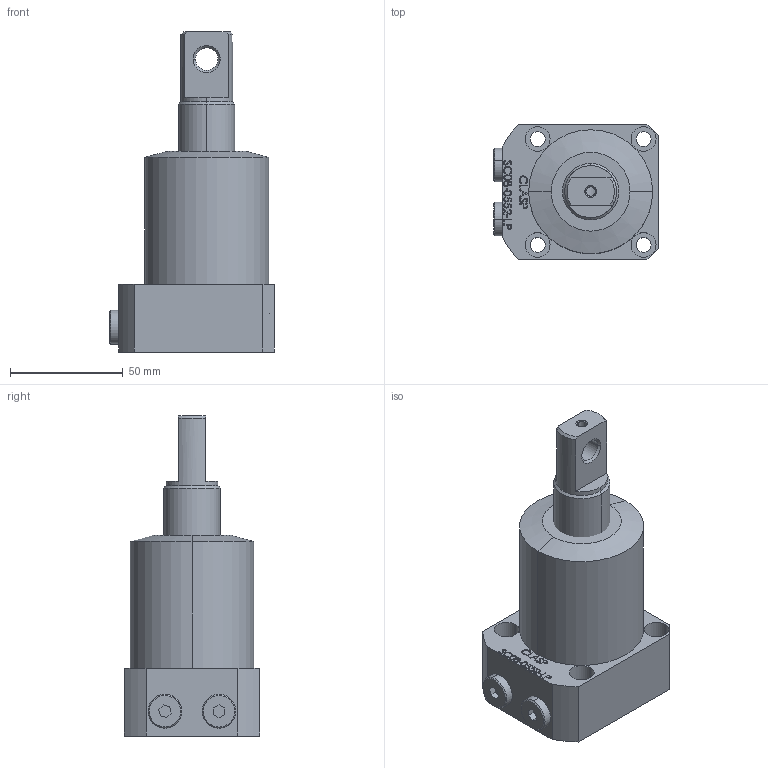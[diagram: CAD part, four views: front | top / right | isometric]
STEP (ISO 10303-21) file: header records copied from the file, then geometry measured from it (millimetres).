
FILE_DESCRIPTION (( 'STEP AP203' ), '1' );
FILE_NAME ('SC08-0552-LP.STEP', '2022-07-08T17:02:35', ( '' ), ( '' ), 'SwSTEP 2.0', 'SolidWorks 2017', '' );
FILE_SCHEMA (( 'CONFIG_CONTROL_DESIGN' ));
Length unit declared in the file: millimetre
Products named in the file (4): SC-08-0552-LP-05 plug; SC08-0552-LP; SC-08-0552-LP BODY; SC-08-0552-LP-Piston
Assembly tree (4 placements, depth 2):
  SC08-0552-LP
    SC-08-0552-LP BODY
    SC-08-0552-LP-Piston
    SC-08-0552-LP-05 plug  x2
Bounding box: 73 x 60 x 142 mm (x, y, z)
Volume: 281635.1 mm3; surface area: 38101.1 mm2
Topology: 4 solids, 4 shells, 332 faces, 830 edges, 546 vertices
Faces by surface type: plane 143, bspline 117, cylinder 50, cone 22
Entity records: 16610 total; most frequent: CARTESIAN_POINT 9237, ORIENTED_EDGE 1596, DIRECTION 1086, EDGE_CURVE 798, VERTEX_POINT 526, VECTOR 444, LINE 444, EDGE_LOOP 368
